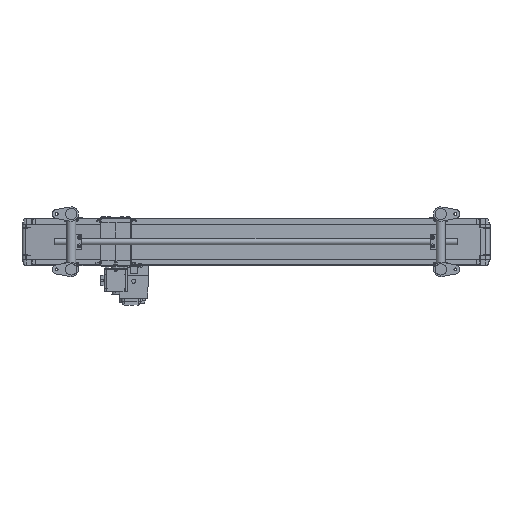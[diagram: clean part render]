
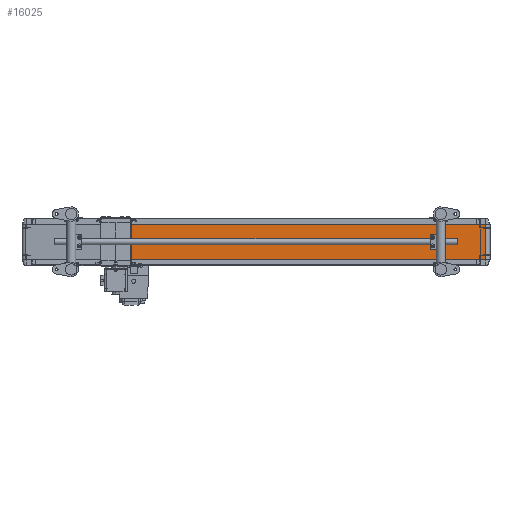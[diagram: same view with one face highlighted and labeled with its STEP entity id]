
A CAD part, front view. The second image highlights one B-rep face of the part: STEP entity #16025.
In plain terms, the highlighted planar face has unit normal (0.023, -1, 0).
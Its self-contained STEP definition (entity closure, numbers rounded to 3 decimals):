
#1375 = EDGE_CURVE ( 'NONE', #34848, #49116, #47440, .T. ) ;
#1858 = DIRECTION ( 'NONE',  ( -0.023, 1., 0. ) ) ;
#10524 = CARTESIAN_POINT ( 'NONE',  ( 434.607, -70.005, 75. ) ) ;
#10617 = DIRECTION ( 'NONE',  ( 0., 0., 1. ) ) ;
#10884 = CARTESIAN_POINT ( 'NONE',  ( 434.607, -70.005, -75. ) ) ;
#11392 = LINE ( 'NONE', #10884, #27637 ) ;
#11747 = DIRECTION ( 'NONE',  ( -1., -0.023, 0. ) ) ;
#16025 = ADVANCED_FACE ( 'NONE', ( #96077 ), #32616, .F. ) ;
#19352 = AXIS2_PLACEMENT_3D ( 'NONE', #64726, #1858, #40567 ) ;
#22296 = LINE ( 'NONE', #26441, #90978 ) ;
#26441 = CARTESIAN_POINT ( 'NONE',  ( 1982.907, -34.195, -75. ) ) ;
#27637 = VECTOR ( 'NONE', #58337, 1000. ) ;
#32616 = PLANE ( 'NONE',  #19352 ) ;
#32697 = VERTEX_POINT ( 'NONE', #10524 ) ;
#34848 = VERTEX_POINT ( 'NONE', #74427 ) ;
#38734 = VECTOR ( 'NONE', #10617, 1000. ) ;
#39623 = CARTESIAN_POINT ( 'NONE',  ( 434.607, -70.005, -75. ) ) ;
#40056 = ORIENTED_EDGE ( 'NONE', *, *, #92064, .F. ) ;
#40319 = EDGE_LOOP ( 'NONE', ( #42381, #40056, #63326, #96628 ) ) ;
#40567 = DIRECTION ( 'NONE',  ( 1., 0.023, 0. ) ) ;
#41273 = CARTESIAN_POINT ( 'NONE',  ( 1982.907, -34.195, -75. ) ) ;
#42381 = ORIENTED_EDGE ( 'NONE', *, *, #42940, .T. ) ;
#42940 = EDGE_CURVE ( 'NONE', #49116, #32697, #97620, .T. ) ;
#43852 = EDGE_CURVE ( 'NONE', #34848, #102209, #22296, .T. ) ;
#47440 = LINE ( 'NONE', #41273, #38734 ) ;
#49116 = VERTEX_POINT ( 'NONE', #51685 ) ;
#51685 = CARTESIAN_POINT ( 'NONE',  ( 1982.907, -34.195, 75. ) ) ;
#58337 = DIRECTION ( 'NONE',  ( 0., 0., 1. ) ) ;
#63326 = ORIENTED_EDGE ( 'NONE', *, *, #43852, .F. ) ;
#64726 = CARTESIAN_POINT ( 'NONE',  ( 1982.907, -34.195, -75. ) ) ;
#74427 = CARTESIAN_POINT ( 'NONE',  ( 1982.907, -34.195, -75. ) ) ;
#90978 = VECTOR ( 'NONE', #11747, 1000. ) ;
#92064 = EDGE_CURVE ( 'NONE', #102209, #32697, #11392, .T. ) ;
#92872 = CARTESIAN_POINT ( 'NONE',  ( 1982.907, -34.195, 75. ) ) ;
#93222 = DIRECTION ( 'NONE',  ( -1., -0.023, 0. ) ) ;
#96077 = FACE_OUTER_BOUND ( 'NONE', #40319, .T. ) ;
#96323 = VECTOR ( 'NONE', #93222, 1000. ) ;
#96628 = ORIENTED_EDGE ( 'NONE', *, *, #1375, .T. ) ;
#97620 = LINE ( 'NONE', #92872, #96323 ) ;
#102209 = VERTEX_POINT ( 'NONE', #39623 ) ;
